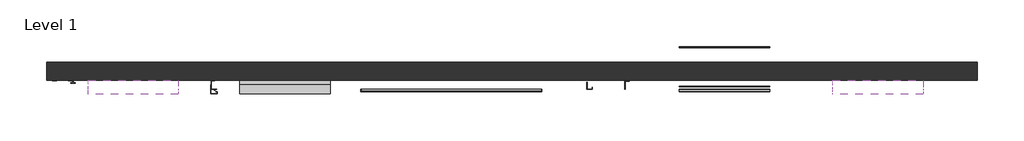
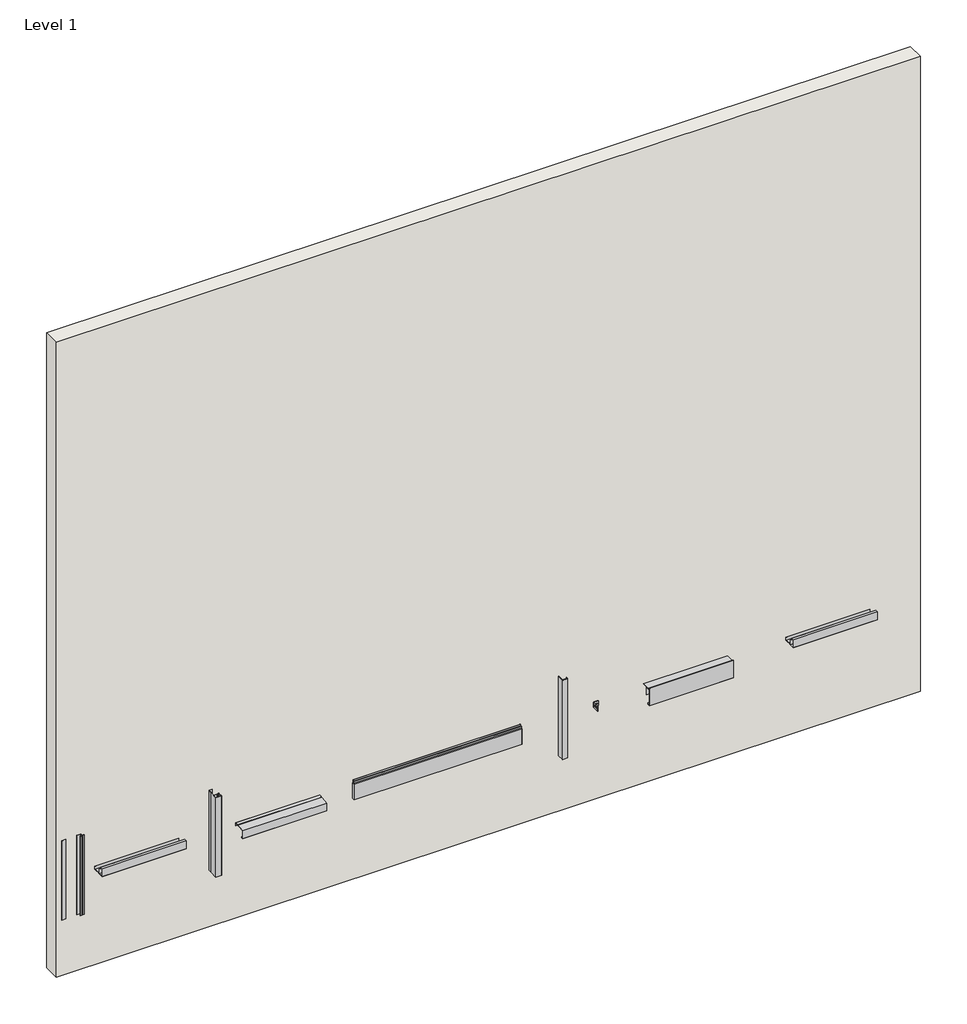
# One storey: 10 proxies, 1 wall.
"""IFC4 building model written with IfcOpenShell, lengths in millimetres."""

from ifc_helpers import new_model, si_unit, origin, origin_with_axes, place, context, project, spatial, polyline, outline, extrude, transform, mapped, element, save
from components import generic_models_7f1a014d, generic_models_3155d79f, generic_models_a6d176bb, generic_models_1ceb38be, generic_models_e221bb01, generic_models_112d27ab, generic_models_14a9ec2d, generic_models_4130ab79, generic_models_2cf9fb38, generic_models_08e67620

model = new_model("IFC4")

# Units and contexts
model_context = context("Model", 3, world=origin())
ifc_project = project(units=[si_unit("LENGTHUNIT", "METRE", prefix="MILLI")], contexts=[model_context])

# Site, building, storey
site = spatial("IfcSite", under=ifc_project)
building = spatial("IfcBuilding", under=site)
storey = spatial("IfcBuildingStorey", under=building, Name="Level 1", Elevation=0.0)

# Proxies
placement = place(None, origin())
generic_models_shape = generic_models_7f1a014d(model_context)
element("IfcBuildingElementProxy", 1, Name="Alubel Alu-skin Corner Type 1 : Alubel Alu-skin Corner Type 1", ObjectType="Alubel Alu-skin Corner Type 1 : Alubel Alu-skin Corner Type 1", at=placement, inside=storey, context=model_context, shape_type="MappedRepresentation", body=[
    mapped(generic_models_shape, transform((-20441.8323127, 1535.8365228, 1200.0), x_axis=(1.0, 0.0, 0.0), y_axis=(0.0, 0.0, 1.0), z_axis=(0.0, -1.0, 0.0))),
])
generic_models_2_shape = generic_models_3155d79f(model_context)
element("IfcBuildingElementProxy", 2, Name="Alubel Alu-Skin Lateral Frame Type1 : Alubel Alu-Skin Lateral Frame Type1", ObjectType="Alubel Alu-Skin Lateral Frame Type1 : Alubel Alu-Skin Lateral Frame Type1", at=placement, inside=storey, context=model_context, shape_type="MappedRepresentation", body=[
    mapped(generic_models_2_shape, transform((-19546.8323127, 1535.8365228, 1200.0), x_axis=(1.0, 0.0, 0.0), y_axis=(0.0, 0.0, 1.0), z_axis=(0.0, -1.0, 0.0))),
])
generic_models_3_shape = generic_models_a6d176bb(model_context)
element("IfcBuildingElementProxy", 3, Name="Alubel Alu-skin Lower closure Type1 : Alubel Alu-skin Lower closure Type1", ObjectType="Alubel Alu-skin Lower closure Type1 : Alubel Alu-skin Lower closure Type1", at=placement, inside=storey, context=model_context, shape_type="MappedRepresentation", body=[
    mapped(generic_models_3_shape, transform((-18649.8323127, 1535.8365228, 718.7815901), x_axis=(1.0, 0.0, 0.0), y_axis=(0.0, 0.0, 1.0), z_axis=(0.0, -1.0, 0.0))),
])
generic_models_4_shape = generic_models_1ceb38be(model_context)
element("IfcBuildingElementProxy", 4, Name="Alubel Alu-skin Lowerl Frame Type1 : Alubel Alu-skin Lowerl Frame Type1", ObjectType="Alubel Alu-skin Lowerl Frame Type1 : Alubel Alu-skin Lowerl Frame Type1", at=placement, inside=storey, context=model_context, shape_type="MappedRepresentation", body=[
    mapped(generic_models_4_shape, transform((-17866.8323127, 1535.8365228, 1200.0), x_axis=(1.0, 0.0, 0.0), y_axis=(0.0, 0.0, 1.0), z_axis=(0.0, -1.0, 0.0))),
])
generic_models_5_shape = generic_models_e221bb01(model_context)
element("IfcBuildingElementProxy", 5, Name="Alubel Alu-Skin panel : Alu-Skin Panel H 205mm with joint", ObjectType="Alubel Alu-Skin panel : Alu-Skin Panel H 205mm with joint", at=placement, inside=storey, context=model_context, shape_type="MappedRepresentation", body=[
    mapped(generic_models_5_shape, transform((-16026.8323127, 1535.8365228, 1200.0), x_axis=(1.0, 0.0, 0.0), y_axis=(0.0, 0.0, 1.0), z_axis=(0.0, -1.0, 0.0))),
])
generic_models_6_shape = generic_models_112d27ab(model_context)
element("IfcBuildingElementProxy", 6, Name="Alubel Alu-Skin Supporting Profile : Alubel Supporting Profile with Dielectric Band", ObjectType="Alubel Alu-Skin Supporting Profile : Alubel Supporting Profile with Dielectric Band", at=placement, inside=storey, context=model_context, shape_type="MappedRepresentation", body=[
    mapped(generic_models_6_shape, transform((-14498.1555738, 1535.8365228, 711.4720041), x_axis=(1.0, 0.0, 0.0), y_axis=(0.0, 0.0, 1.0), z_axis=(0.0, -1.0, 0.0))),
])
generic_models_7_shape = generic_models_14a9ec2d(model_context)
element("IfcBuildingElementProxy", 7, Name="Alubel Alu-Skin Thermostop and Bracket : Thermostop+Bracket 60x60x90mm", ObjectType="Alubel Alu-Skin Thermostop and Bracket : Thermostop+Bracket 60x60x90mm", at=placement, inside=storey, context=model_context, shape_type="MappedRepresentation", body=[
    mapped(generic_models_7_shape, transform((-14076.8323127, 1535.8365228, 1200.0), x_axis=(1.0, 0.0, 0.0), y_axis=(0.0, 0.0, 1.0), z_axis=(0.0, -1.0, 0.0))),
])
generic_models_8_shape = generic_models_4130ab79(model_context)
element("IfcBuildingElementProxy", 8, Name="Alubel Alu-Skin Upper Closure Type 1 : Alubel Alu-Skin Upper Closure Type 1", ObjectType="Alubel Alu-Skin Upper Closure Type 1 : Alubel Alu-Skin Upper Closure Type 1", at=placement, inside=storey, context=model_context, shape_type="MappedRepresentation", body=[
    mapped(generic_models_8_shape, transform((-13506.8323127, 1535.8365228, 1200.0), x_axis=(1.0, 0.0, 0.0), y_axis=(0.0, 0.0, 1.0), z_axis=(0.0, -1.0, 0.0))),
])
generic_models_9_shape = generic_models_2cf9fb38(model_context)
element("IfcBuildingElementProxy", 9, Name="Alubel Alu-Skin Upper Frame Type1 : Alubel Alu-Skin Upper Frame Type1", ObjectType="Alubel Alu-Skin Upper Frame Type1 : Alubel Alu-Skin Upper Frame Type1", at=placement, inside=storey, context=model_context, shape_type="MappedRepresentation", body=[
    mapped(generic_models_9_shape, transform((-11306.8323127, 1535.8365228, 1200.0), x_axis=(1.0, 0.0, 0.0), y_axis=(0.0, 0.0, 1.0), z_axis=(0.0, -1.0, 0.0))),
])
generic_models_10_shape = generic_models_08e67620(model_context)
element("IfcBuildingElementProxy", 10, Name="Alubel Alu-Skin Joint Type1 : Alubel Alu-Skin Joint Type1", ObjectType="Alubel Alu-Skin Joint Type1 : Alubel Alu-Skin Joint Type1", at=placement, inside=storey, context=model_context, shape_type="MappedRepresentation", body=[
    mapped(generic_models_10_shape, transform((-20214.1125717, 1535.8365228, 705.4588846), x_axis=(1.0, 0.0, 0.0), y_axis=(0.0, 0.0, 1.0), z_axis=(0.0, -1.0, 0.0))),
])

# Wall
element("IfcWall", 11, ObjectType="Generic - 200mm", at=placement, inside=storey, context=model_context, shape_type="SweptSolid", body=[
    extrude(outline(polyline([(-10206.8323127, 1535.8365228), (-20506.8323127, 1535.8365228), (-20506.8323127, 1735.8365228), (-10206.8323127, 1735.8365228), (-10206.8323127, 1535.8365228)])), origin_with_axes(), (0.0, 0.0, 1.0), 8000.0),
])

save(model, "model.ifc")
